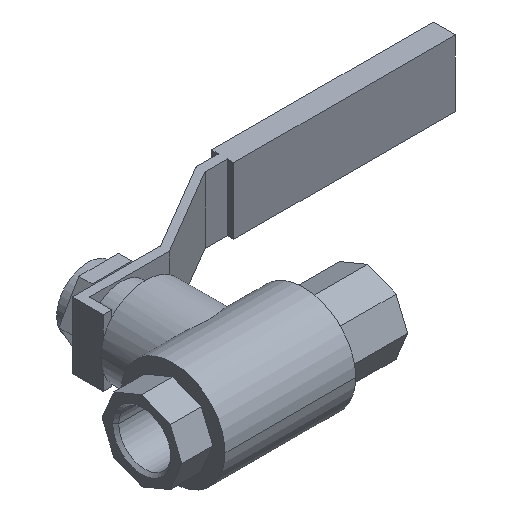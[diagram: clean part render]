
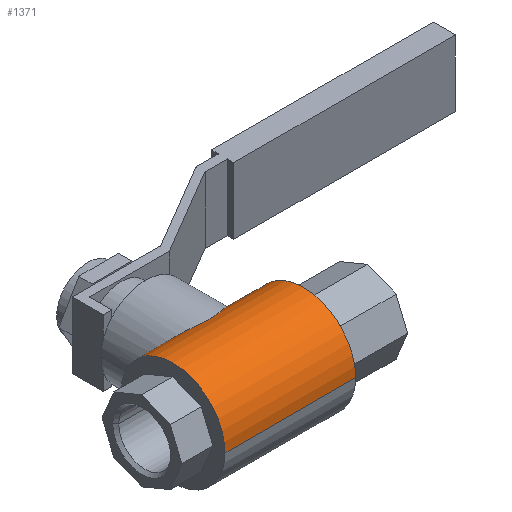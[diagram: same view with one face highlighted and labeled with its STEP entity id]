
A CAD part, isometric view. The second image highlights one B-rep face of the part: STEP entity #1371.
In plain terms, the highlighted cylindrical face has radius 11.75 mm (diameter 23.5 mm), a partial arc.
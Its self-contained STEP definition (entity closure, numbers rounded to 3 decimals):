
#136=CARTESIAN_POINT('',(10.,11.75,0.));
#192=CARTESIAN_POINT('',(-10.,11.75,0.));
#212=CARTESIAN_POINT('',(-10.,11.75,0.));
#213=CARTESIAN_POINT('',(-10.,11.75,0.181));
#214=CARTESIAN_POINT('',(-9.99,11.742,0.544));
#215=CARTESIAN_POINT('',(-9.945,11.704,1.091));
#216=CARTESIAN_POINT('',(-9.87,11.64,1.636));
#217=CARTESIAN_POINT('',(-9.764,11.55,2.182));
#218=CARTESIAN_POINT('',(-9.626,11.433,2.729));
#219=CARTESIAN_POINT('',(-9.455,11.289,3.274));
#220=CARTESIAN_POINT('',(-9.249,11.117,3.818));
#221=CARTESIAN_POINT('',(-9.005,10.915,4.363));
#222=CARTESIAN_POINT('',(-8.723,10.684,4.902));
#223=CARTESIAN_POINT('',(-8.4,10.422,5.438));
#224=CARTESIAN_POINT('',(-8.034,10.129,5.966));
#225=CARTESIAN_POINT('',(-7.623,9.806,6.483));
#226=CARTESIAN_POINT('',(-7.169,9.456,6.983));
#227=CARTESIAN_POINT('',(-6.673,9.086,7.459));
#228=CARTESIAN_POINT('',(-6.138,8.7,7.905));
#229=CARTESIAN_POINT('',(-5.568,8.307,8.317));
#230=CARTESIAN_POINT('',(-4.97,7.918,8.687));
#231=CARTESIAN_POINT('',(-4.372,7.557,9.001));
#232=CARTESIAN_POINT('',(-3.791,7.236,9.26));
#233=CARTESIAN_POINT('',(-3.234,6.96,9.469));
#234=CARTESIAN_POINT('',(-2.707,6.732,9.631));
#235=CARTESIAN_POINT('',(-2.21,6.548,9.757));
#236=CARTESIAN_POINT('',(-1.738,6.405,9.851));
#237=CARTESIAN_POINT('',(-1.288,6.297,9.92));
#238=CARTESIAN_POINT('',(-0.849,6.223,9.967));
#239=CARTESIAN_POINT('',(-0.421,6.179,9.994));
#240=CARTESIAN_POINT('',(0.,6.165,10.003));
#241=CARTESIAN_POINT('',(0.421,6.179,9.994));
#242=CARTESIAN_POINT('',(0.849,6.223,9.967));
#243=CARTESIAN_POINT('',(1.287,6.297,9.92));
#244=CARTESIAN_POINT('',(1.738,6.405,9.851));
#245=CARTESIAN_POINT('',(2.21,6.548,9.757));
#246=CARTESIAN_POINT('',(2.707,6.732,9.631));
#247=CARTESIAN_POINT('',(3.233,6.96,9.469));
#248=CARTESIAN_POINT('',(3.791,7.236,9.26));
#249=CARTESIAN_POINT('',(4.372,7.557,9.001));
#250=CARTESIAN_POINT('',(4.97,7.918,8.687));
#251=CARTESIAN_POINT('',(5.568,8.307,8.317));
#252=CARTESIAN_POINT('',(6.138,8.7,7.905));
#253=CARTESIAN_POINT('',(6.673,9.086,7.459));
#254=CARTESIAN_POINT('',(7.169,9.456,6.983));
#255=CARTESIAN_POINT('',(7.624,9.806,6.483));
#256=CARTESIAN_POINT('',(8.034,10.129,5.966));
#257=CARTESIAN_POINT('',(8.4,10.422,5.438));
#258=CARTESIAN_POINT('',(8.723,10.684,4.902));
#259=CARTESIAN_POINT('',(9.005,10.915,4.362));
#260=CARTESIAN_POINT('',(9.249,11.117,3.818));
#261=CARTESIAN_POINT('',(9.455,11.29,3.274));
#262=CARTESIAN_POINT('',(9.626,11.433,2.729));
#263=CARTESIAN_POINT('',(9.764,11.55,2.182));
#264=CARTESIAN_POINT('',(9.87,11.64,1.636));
#265=CARTESIAN_POINT('',(9.945,11.704,1.091));
#266=CARTESIAN_POINT('',(9.99,11.742,0.544));
#267=CARTESIAN_POINT('',(10.,11.75,0.181));
#268=CARTESIAN_POINT('',(10.,11.75,0.));
#270=DIRECTION('',(-1.,0.,0.));
#271=VECTOR('',#270,4.75);
#272=CARTESIAN_POINT('',(14.75,11.75,0.));
#273=LINE('',#272,#271);
#274=CARTESIAN_POINT('',(14.75,0.,0.));
#275=DIRECTION('',(-1.,0.,0.));
#276=DIRECTION('',(0.,-1.,0.));
#277=AXIS2_PLACEMENT_3D('',#274,#275,#276);
#279=DIRECTION('',(-1.,0.,0.));
#280=VECTOR('',#279,29.5);
#281=CARTESIAN_POINT('',(14.75,-11.75,0.));
#282=LINE('',#281,#280);
#283=CARTESIAN_POINT('',(-14.75,0.,0.));
#284=DIRECTION('',(-1.,0.,0.));
#285=DIRECTION('',(0.,-1.,0.));
#286=AXIS2_PLACEMENT_3D('',#283,#284,#285);
#288=DIRECTION('',(-1.,0.,0.));
#289=VECTOR('',#288,4.75);
#290=CARTESIAN_POINT('',(-10.,11.75,0.));
#291=LINE('',#290,#289);
#840=CARTESIAN_POINT('',(14.75,11.75,0.));
#841=CARTESIAN_POINT('',(14.75,-11.75,0.));
#842=VERTEX_POINT('',#840);
#843=VERTEX_POINT('',#841);
#844=CARTESIAN_POINT('',(-14.75,11.75,0.));
#845=CARTESIAN_POINT('',(-14.75,-11.75,0.));
#846=VERTEX_POINT('',#844);
#847=VERTEX_POINT('',#845);
#848=VERTEX_POINT('',#136);
#849=VERTEX_POINT('',#192);
#1357=CARTESIAN_POINT('',(31.8,0.,0.));
#1358=DIRECTION('',(-1.,0.,0.));
#1359=DIRECTION('',(0.,1.,0.));
#1360=AXIS2_PLACEMENT_3D('',#1357,#1358,#1359);
#1361=CYLINDRICAL_SURFACE('',#1360,11.75);
#1362=ORIENTED_EDGE('',*,*,#1341,.T.);
#1363=ORIENTED_EDGE('',*,*,#1302,.F.);
#1365=ORIENTED_EDGE('',*,*,#1364,.F.);
#1366=ORIENTED_EDGE('',*,*,#1298,.T.);
#1367=ORIENTED_EDGE('',*,*,#1266,.T.);
#1368=ORIENTED_EDGE('',*,*,#1295,.F.);
#1369=EDGE_LOOP('',(#1362,#1363,#1365,#1366,#1367,#1368));
#1370=FACE_OUTER_BOUND('',#1369,.F.);
#1371=ADVANCED_FACE('',(#1370),#1361,.T.);
#269=B_SPLINE_CURVE_WITH_KNOTS('',3,(#212,#213,#214,#215,#216,#217,#218,#219,
#220,#221,#222,#223,#224,#225,#226,#227,#228,#229,#230,#231,#232,#233,#234,#235,
#236,#237,#238,#239,#240,#241,#242,#243,#244,#245,#246,#247,#248,#249,#250,#251,
#252,#253,#254,#255,#256,#257,#258,#259,#260,#261,#262,#263,#264,#265,#266,#267,
#268),.UNSPECIFIED.,.F.,.F.,(4,1,1,1,1,1,1,1,1,1,1,1,1,1,1,1,1,1,1,1,1,1,1,1,1,
1,1,1,1,1,1,1,1,1,1,1,1,1,1,1,1,1,1,1,1,1,1,1,1,1,1,1,1,1,4),(0.,
0.019,0.037,0.056,0.074,
0.093,0.111,0.13,0.148,
0.167,0.185,0.204,0.222,
0.241,0.259,0.278,0.296,
0.315,0.333,0.352,0.37,
0.389,0.407,0.426,0.444,
0.463,0.481,0.5,0.519,0.537,
0.556,0.574,0.593,0.611,
0.63,0.648,0.667,0.685,
0.704,0.722,0.741,0.759,
0.778,0.796,0.815,0.833,
0.852,0.87,0.889,0.907,
0.926,0.944,0.963,0.981,1.),
.UNSPECIFIED.);
#278=CIRCLE('',#277,11.75);
#287=CIRCLE('',#286,11.75);
#1266=EDGE_CURVE('',#847,#846,#287,.T.);
#1295=EDGE_CURVE('',#849,#846,#291,.T.);
#1298=EDGE_CURVE('',#843,#847,#282,.T.);
#1302=EDGE_CURVE('',#842,#848,#273,.T.);
#1341=EDGE_CURVE('',#849,#848,#269,.T.);
#1364=EDGE_CURVE('',#843,#842,#278,.T.);
